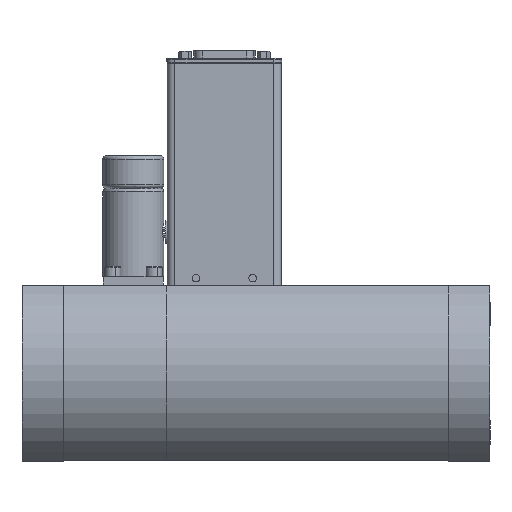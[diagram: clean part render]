
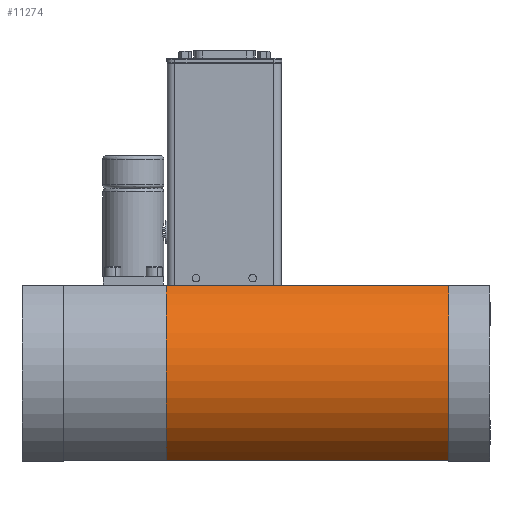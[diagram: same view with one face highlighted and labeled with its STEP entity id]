
A CAD part, left-side view. The second image highlights one B-rep face of the part: STEP entity #11274.
In plain terms, the highlighted cylindrical face has radius 42 mm (diameter 84 mm), a partial arc.
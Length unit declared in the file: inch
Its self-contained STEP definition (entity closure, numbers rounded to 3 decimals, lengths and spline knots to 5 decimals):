
#579 = EDGE_CURVE ( 'NONE', #16220, #2178, #3251, .T. ) ;
#785 = VECTOR ( 'NONE', #20337, 39.37008 ) ;
#2099 = CIRCLE ( 'NONE', #21542, 1.65354 ) ;
#2178 = VERTEX_POINT ( 'NONE', #19119 ) ;
#3251 = CIRCLE ( 'NONE', #9767, 1.65354 ) ;
#4489 = EDGE_CURVE ( 'NONE', #16220, #22558, #4973, .T. ) ;
#4910 = VERTEX_POINT ( 'NONE', #13285 ) ;
#4924 = EDGE_CURVE ( 'NONE', #4910, #2178, #14290, .T. ) ;
#4973 = LINE ( 'NONE', #8054, #16786 ) ;
#5386 = CARTESIAN_POINT ( 'NONE',  ( 0., 4.72441, 0. ) ) ;
#5835 = DIRECTION ( 'NONE',  ( 0., -1., 0. ) ) ;
#5858 = EDGE_LOOP ( 'NONE', ( #10852, #22273, #9660, #16177 ) ) ;
#7168 = DIRECTION ( 'NONE',  ( 0., 0., 1. ) ) ;
#7761 = DIRECTION ( 'NONE',  ( 0., 0., 1. ) ) ;
#7806 = AXIS2_PLACEMENT_3D ( 'NONE', #14491, #21572, #11039 ) ;
#8054 = CARTESIAN_POINT ( 'NONE',  ( -0.76007, 0., 1.4685 ) ) ;
#9555 = FACE_OUTER_BOUND ( 'NONE', #5858, .T. ) ;
#9660 = ORIENTED_EDGE ( 'NONE', *, *, #4924, .T. ) ;
#9767 = AXIS2_PLACEMENT_3D ( 'NONE', #12144, #5835, #7761 ) ;
#10450 = CARTESIAN_POINT ( 'NONE',  ( -0.76007, 4.72441, 1.4685 ) ) ;
#10754 = CARTESIAN_POINT ( 'NONE',  ( -0.76007, 0., 1.4685 ) ) ;
#10852 = ORIENTED_EDGE ( 'NONE', *, *, #4489, .T. ) ;
#11039 = DIRECTION ( 'NONE',  ( 0., 0., 1. ) ) ;
#11274 = ADVANCED_FACE ( 'NONE', ( #9555 ), #13145, .T. ) ;
#12144 = CARTESIAN_POINT ( 'NONE',  ( 0., 0., 0. ) ) ;
#13145 = CYLINDRICAL_SURFACE ( 'NONE', #7806, 1.65354 ) ;
#13285 = CARTESIAN_POINT ( 'NONE',  ( -0.76007, 4.72441, -1.4685 ) ) ;
#14290 = LINE ( 'NONE', #22106, #785 ) ;
#14491 = CARTESIAN_POINT ( 'NONE',  ( 0., 0., 0. ) ) ;
#16177 = ORIENTED_EDGE ( 'NONE', *, *, #579, .F. ) ;
#16220 = VERTEX_POINT ( 'NONE', #10754 ) ;
#16786 = VECTOR ( 'NONE', #16845, 39.37008 ) ;
#16845 = DIRECTION ( 'NONE',  ( 0., 1., 0. ) ) ;
#17703 = DIRECTION ( 'NONE',  ( 0., -1., 0. ) ) ;
#18507 = EDGE_CURVE ( 'NONE', #22558, #4910, #2099, .T. ) ;
#19119 = CARTESIAN_POINT ( 'NONE',  ( -0.76007, 0., -1.4685 ) ) ;
#20337 = DIRECTION ( 'NONE',  ( 0., -1., 0. ) ) ;
#21542 = AXIS2_PLACEMENT_3D ( 'NONE', #5386, #17703, #7168 ) ;
#21572 = DIRECTION ( 'NONE',  ( 0., 1., 0. ) ) ;
#22106 = CARTESIAN_POINT ( 'NONE',  ( -0.76007, 0., -1.4685 ) ) ;
#22273 = ORIENTED_EDGE ( 'NONE', *, *, #18507, .T. ) ;
#22558 = VERTEX_POINT ( 'NONE', #10450 ) ;
